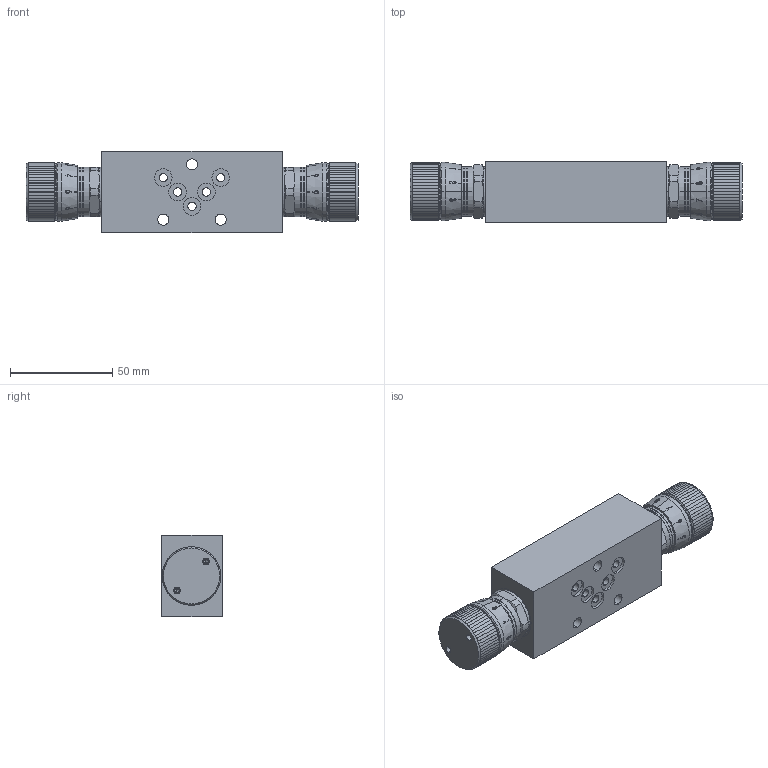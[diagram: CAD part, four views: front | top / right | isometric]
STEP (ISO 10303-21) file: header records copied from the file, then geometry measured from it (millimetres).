
FILE_DESCRIPTION (( 'STEP AP214' ), '1' );
FILE_NAME ('BDRAB4.STEP', '2017-04-10T12:48:12', ( '' ), ( '' ), 'SwSTEP 2.0', 'SolidWorks 2016', '' );
FILE_SCHEMA (( 'AUTOMOTIVE_DESIGN' ));
Length unit declared in the file: millimetre
Products named in the file (1): BDRAB4
Bounding box: 162 x 29.5 x 40 mm (x, y, z)
Volume: 141221.4 mm3; surface area: 26284.6 mm2
Topology: 1 solids, 5 shells, 1228 faces, 3337 edges, 2176 vertices
Faces by surface type: plane 735, cylinder 245, bspline 144, cone 94, torus 10
Entity records: 60308 total; most frequent: CARTESIAN_POINT 18497, ORIENTED_EDGE 6650, DIRECTION 4812, EDGE_CURVE 3325, VERTEX_POINT 2176, AXIS2_PLACEMENT_3D 1740, VECTOR 1332, LINE 1332
